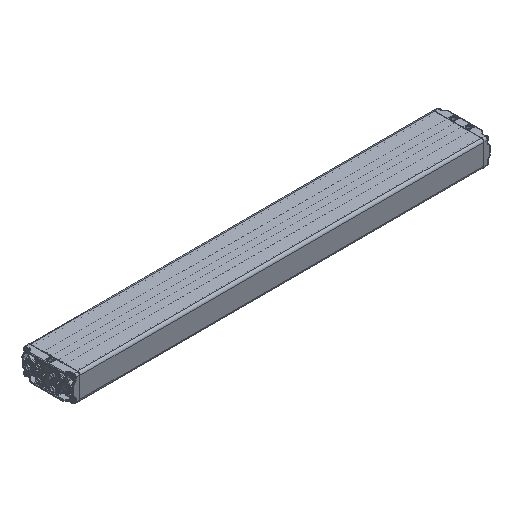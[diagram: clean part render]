
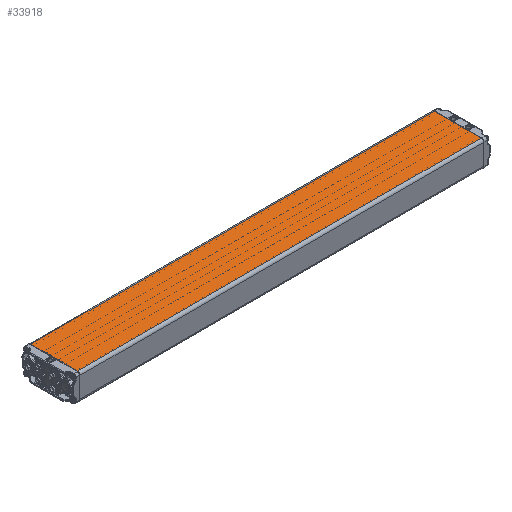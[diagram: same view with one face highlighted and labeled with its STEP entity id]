
A CAD part, isometric view. The second image highlights one B-rep face of the part: STEP entity #33918.
In plain terms, the highlighted planar face has unit normal (0, 0, 1).
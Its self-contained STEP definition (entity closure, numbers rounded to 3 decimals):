
#3531=LINE('',#72337,#4816);
#3532=LINE('',#72340,#4817);
#3533=LINE('',#72342,#4818);
#3534=LINE('',#72344,#4819);
#4816=VECTOR('',#41177,1000.);
#4817=VECTOR('',#41178,1000.);
#4818=VECTOR('',#41179,1000.);
#4819=VECTOR('',#41180,1000.);
#10128=ORIENTED_EDGE('',*,*,#16199,.T.);
#10129=ORIENTED_EDGE('',*,*,#16200,.T.);
#10130=ORIENTED_EDGE('',*,*,#16201,.T.);
#10131=ORIENTED_EDGE('',*,*,#16202,.T.);
#16199=EDGE_CURVE('',#19463,#19464,#3531,.F.);
#16200=EDGE_CURVE('',#19464,#19465,#3532,.T.);
#16201=EDGE_CURVE('',#19465,#19466,#3533,.T.);
#16202=EDGE_CURVE('',#19466,#19463,#3534,.F.);
#19463=VERTEX_POINT('',#72338);
#19464=VERTEX_POINT('',#72339);
#19465=VERTEX_POINT('',#72341);
#19466=VERTEX_POINT('',#72343);
#22967=EDGE_LOOP('',(#10128,#10129,#10130,#10131));
#24959=FACE_BOUND('',#22967,.T.);
#26096=PLANE('',#36194);
#33918=ADVANCED_FACE('',(#24959),#26096,.T.);
#36194=AXIS2_PLACEMENT_3D('',#72336,#41175,#41176);
#41175=DIRECTION('',(0.,0.,1.));
#41176=DIRECTION('',(1.,0.,0.));
#41177=DIRECTION('',(0.,-1.,0.));
#41178=DIRECTION('',(-1.,0.,0.));
#41179=DIRECTION('',(0.,-1.,0.));
#41180=DIRECTION('',(-1.,0.,0.));
#72336=CARTESIAN_POINT('',(60.,939.5,30.));
#72337=CARTESIAN_POINT('',(54.,939.5,30.));
#72338=CARTESIAN_POINT('',(54.,0.5,30.));
#72339=CARTESIAN_POINT('',(54.,939.,30.));
#72340=CARTESIAN_POINT('',(60.,939.,30.));
#72341=CARTESIAN_POINT('',(-54.,939.,30.));
#72342=CARTESIAN_POINT('',(-54.,939.5,30.));
#72343=CARTESIAN_POINT('',(-54.,0.5,30.));
#72344=CARTESIAN_POINT('',(54.,0.5,30.));
